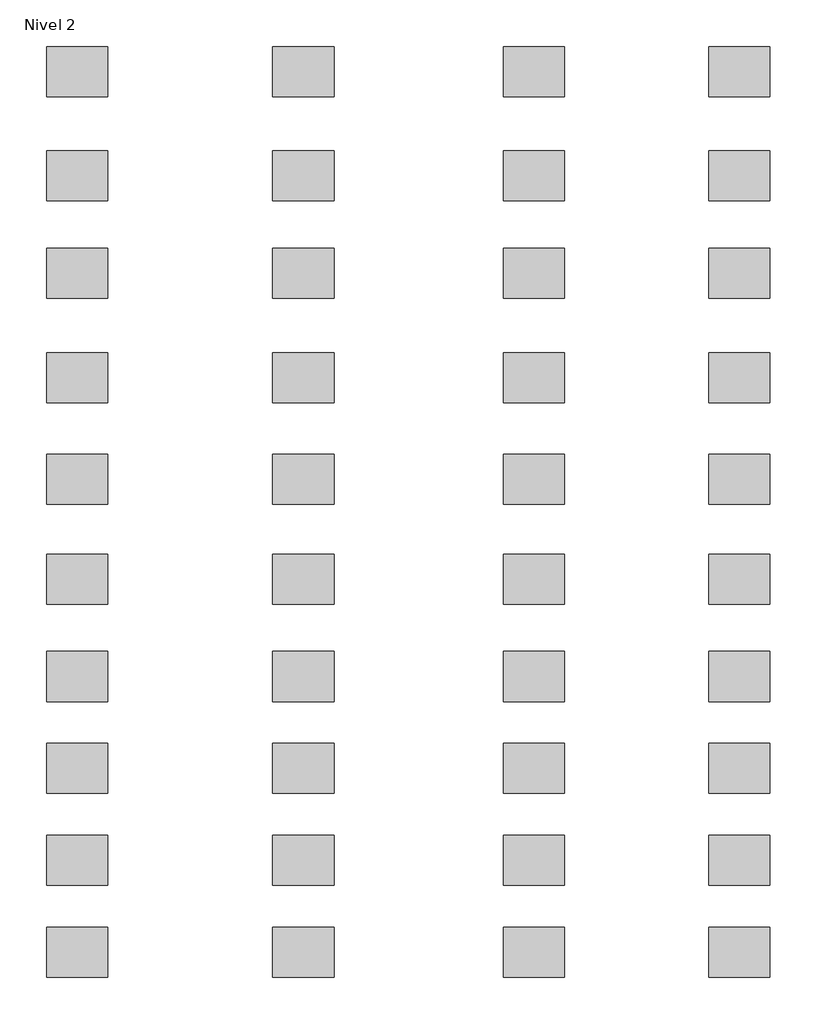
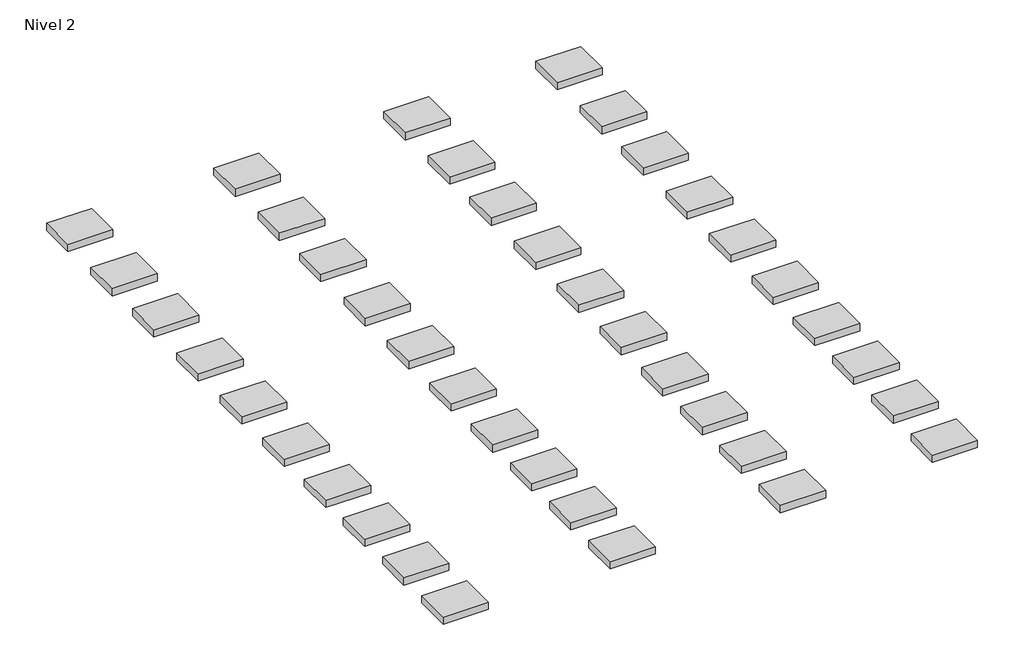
# One storey: 40 furniture elements.
"""IFC4 building model written with IfcOpenShell, lengths in millimetres."""

from ifc_helpers import new_model, si_unit, origin, place, context, project, spatial, transform, mapped, element, save
from components import furniture_fc90d0a3

model = new_model("IFC4")

# Units and contexts
model_context = context("Model", 3, world=origin())
ifc_project = project(units=[si_unit("LENGTHUNIT", "METRE", prefix="MILLI")], contexts=[model_context])

# Site, building, storey
site = spatial("IfcSite", under=ifc_project)
building = spatial("IfcBuilding", under=site)
storey = spatial("IfcBuildingStorey", under=building, Name="Nivel 2", Elevation=4000.0)

# Furniture
placement = place(None, origin())
furniture_shape = furniture_fc90d0a3(model_context)
element("IfcFurniture", 1, ObjectType="Natura : Natura 01", at=placement, inside=storey, context=model_context, shape_type="MappedRepresentation", body=[
    mapped(furniture_shape, transform((-9674.6867993, 10060.919512, 4000.0), x_axis=(1.0, 0.0, 0.0), y_axis=(0.0, 1.0, 0.0), z_axis=(0.0, 0.0, 1.0))),
])
element("IfcFurniture", 2, ObjectType="Natura : Natura 07", at=placement, inside=storey, context=model_context, shape_type="MappedRepresentation", body=[
    mapped(furniture_shape, transform((-9674.6867993, 7528.1002461, 4000.0), x_axis=(1.0, 0.0, 0.0), y_axis=(0.0, 1.0, 0.0), z_axis=(0.0, 0.0, 1.0))),
])
element("IfcFurniture", 3, ObjectType="Natura : Natura 08", at=placement, inside=storey, context=model_context, shape_type="MappedRepresentation", body=[
    mapped(furniture_shape, transform((-9674.6867993, 5160.919512, 4000.0), x_axis=(1.0, 0.0, 0.0), y_axis=(0.0, 1.0, 0.0), z_axis=(0.0, 0.0, 1.0))),
])
element("IfcFurniture", 4, ObjectType="Natura : Natura 10", at=placement, inside=storey, context=model_context, shape_type="MappedRepresentation", body=[
    mapped(furniture_shape, transform((-9674.6867993, 2628.1002461, 4000.0), x_axis=(1.0, 0.0, 0.0), y_axis=(0.0, 1.0, 0.0), z_axis=(0.0, 0.0, 1.0))),
])
element("IfcFurniture", 5, ObjectType="Natura : Natura 11", at=placement, inside=storey, context=model_context, shape_type="MappedRepresentation", body=[
    mapped(furniture_shape, transform((-9674.6867993, 162.8228274, 4000.0), x_axis=(1.0, 0.0, 0.0), y_axis=(0.0, 1.0, 0.0), z_axis=(0.0, 0.0, 1.0))),
])
element("IfcFurniture", 6, ObjectType="Natura : Natura 111", at=placement, inside=storey, context=model_context, shape_type="MappedRepresentation", body=[
    mapped(furniture_shape, transform((-4174.6867993, -6861.5292699, 4000.0), x_axis=(1.0, 0.0, 0.0), y_axis=(0.0, 1.0, 0.0), z_axis=(0.0, 0.0, 1.0))),
])
element("IfcFurniture", 7, ObjectType="Natura : Natura 131", at=placement, inside=storey, context=model_context, shape_type="MappedRepresentation", body=[
    mapped(furniture_shape, transform((-4174.6867993, -9090.4102238, 4000.0), x_axis=(1.0, 0.0, 0.0), y_axis=(0.0, 1.0, 0.0), z_axis=(0.0, 0.0, 1.0))),
])
element("IfcFurniture", 8, ObjectType="Natura : Natura 15", at=placement, inside=storey, context=model_context, shape_type="MappedRepresentation", body=[
    mapped(furniture_shape, transform((-9674.6867993, -2268.6836678, 4000.0), x_axis=(1.0, 0.0, 0.0), y_axis=(0.0, 1.0, 0.0), z_axis=(0.0, 0.0, 1.0))),
])
element("IfcFurniture", 9, ObjectType="Natura : Natura 156", at=placement, inside=storey, context=model_context, shape_type="MappedRepresentation", body=[
    mapped(furniture_shape, transform((-4174.6867993, -11332.6483159, 4000.0), x_axis=(1.0, 0.0, 0.0), y_axis=(0.0, 1.0, 0.0), z_axis=(0.0, 0.0, 1.0))),
])
element("IfcFurniture", 10, ObjectType="Natura : Natura 213", at=placement, inside=storey, context=model_context, shape_type="MappedRepresentation", body=[
    mapped(furniture_shape, transform((1425.3132007, 10060.919512, 4000.0), x_axis=(1.0, 0.0, 0.0), y_axis=(0.0, 1.0, 0.0), z_axis=(0.0, 0.0, 1.0))),
])
element("IfcFurniture", 11, ObjectType="Natura : Natura 250", at=placement, inside=storey, context=model_context, shape_type="MappedRepresentation", body=[
    mapped(furniture_shape, transform((1425.3132007, 7528.1002461, 4000.0), x_axis=(1.0, 0.0, 0.0), y_axis=(0.0, 1.0, 0.0), z_axis=(0.0, 0.0, 1.0))),
])
element("IfcFurniture", 12, ObjectType="Natura : Natura 266", at=placement, inside=storey, context=model_context, shape_type="MappedRepresentation", body=[
    mapped(furniture_shape, transform((1425.3132007, 5160.919512, 4000.0), x_axis=(1.0, 0.0, 0.0), y_axis=(0.0, 1.0, 0.0), z_axis=(0.0, 0.0, 1.0))),
])
element("IfcFurniture", 13, ObjectType="Natura : Natura 27", at=placement, inside=storey, context=model_context, shape_type="MappedRepresentation", body=[
    mapped(furniture_shape, transform((-9674.6867993, -4632.6483159, 4000.0), x_axis=(1.0, 0.0, 0.0), y_axis=(0.0, 1.0, 0.0), z_axis=(0.0, 0.0, 1.0))),
])
element("IfcFurniture", 14, ObjectType="Natura : Natura 271", at=placement, inside=storey, context=model_context, shape_type="MappedRepresentation", body=[
    mapped(furniture_shape, transform((1425.3132007, 2628.1002461, 4000.0), x_axis=(1.0, 0.0, 0.0), y_axis=(0.0, 1.0, 0.0), z_axis=(0.0, 0.0, 1.0))),
])
element("IfcFurniture", 15, ObjectType="Natura : Natura 30", at=placement, inside=storey, context=model_context, shape_type="MappedRepresentation", body=[
    mapped(furniture_shape, transform((-9674.6867993, -6861.5292699, 4000.0), x_axis=(1.0, 0.0, 0.0), y_axis=(0.0, 1.0, 0.0), z_axis=(0.0, 0.0, 1.0))),
])
element("IfcFurniture", 16, ObjectType="Natura : Natura 300", at=placement, inside=storey, context=model_context, shape_type="MappedRepresentation", body=[
    mapped(furniture_shape, transform((1425.3132007, 162.8228274, 4000.0), x_axis=(1.0, 0.0, 0.0), y_axis=(0.0, 1.0, 0.0), z_axis=(0.0, 0.0, 1.0))),
])
element("IfcFurniture", 17, ObjectType="Natura : Natura 324", at=placement, inside=storey, context=model_context, shape_type="MappedRepresentation", body=[
    mapped(furniture_shape, transform((1425.3132007, -2268.6836678, 4000.0), x_axis=(1.0, 0.0, 0.0), y_axis=(0.0, 1.0, 0.0), z_axis=(0.0, 0.0, 1.0))),
])
element("IfcFurniture", 18, ObjectType="Natura : Natura 336", at=placement, inside=storey, context=model_context, shape_type="MappedRepresentation", body=[
    mapped(furniture_shape, transform((1425.3132007, -4632.6483159, 4000.0), x_axis=(1.0, 0.0, 0.0), y_axis=(0.0, 1.0, 0.0), z_axis=(0.0, 0.0, 1.0))),
])
element("IfcFurniture", 19, ObjectType="Natura : Natura 339", at=placement, inside=storey, context=model_context, shape_type="MappedRepresentation", body=[
    mapped(furniture_shape, transform((1425.3132007, -6861.5292699, 4000.0), x_axis=(1.0, 0.0, 0.0), y_axis=(0.0, 1.0, 0.0), z_axis=(0.0, 0.0, 1.0))),
])
element("IfcFurniture", 20, ObjectType="Natura : Natura 349", at=placement, inside=storey, context=model_context, shape_type="MappedRepresentation", body=[
    mapped(furniture_shape, transform((1425.3132007, -9090.4102238, 4000.0), x_axis=(1.0, 0.0, 0.0), y_axis=(0.0, 1.0, 0.0), z_axis=(0.0, 0.0, 1.0))),
])
element("IfcFurniture", 21, ObjectType="Natura : Natura 43", at=placement, inside=storey, context=model_context, shape_type="MappedRepresentation", body=[
    mapped(furniture_shape, transform((-9674.6867993, -9090.4102238, 4000.0), x_axis=(1.0, 0.0, 0.0), y_axis=(0.0, 1.0, 0.0), z_axis=(0.0, 0.0, 1.0))),
])
element("IfcFurniture", 22, ObjectType="Natura : Natura 46", at=placement, inside=storey, context=model_context, shape_type="MappedRepresentation", body=[
    mapped(furniture_shape, transform((-9674.6867993, -11332.6483159, 4000.0), x_axis=(1.0, 0.0, 0.0), y_axis=(0.0, 1.0, 0.0), z_axis=(0.0, 0.0, 1.0))),
])
element("IfcFurniture", 23, ObjectType="Natura : Natura 525", at=placement, inside=storey, context=model_context, shape_type="MappedRepresentation", body=[
    mapped(furniture_shape, transform((1425.3132007, -11332.6483159, 4000.0), x_axis=(1.0, 0.0, 0.0), y_axis=(0.0, 1.0, 0.0), z_axis=(0.0, 0.0, 1.0))),
])
element("IfcFurniture", 24, ObjectType="Natura : Natura 526", at=placement, inside=storey, context=model_context, shape_type="MappedRepresentation", body=[
    mapped(furniture_shape, transform((6425.3132007, 10060.919512, 4000.0), x_axis=(1.0, 0.0, 0.0), y_axis=(0.0, 1.0, 0.0), z_axis=(0.0, 0.0, 1.0))),
])
element("IfcFurniture", 25, ObjectType="Natura : Natura 527", at=placement, inside=storey, context=model_context, shape_type="MappedRepresentation", body=[
    mapped(furniture_shape, transform((6425.3132007, 7528.1002461, 4000.0), x_axis=(1.0, 0.0, 0.0), y_axis=(0.0, 1.0, 0.0), z_axis=(0.0, 0.0, 1.0))),
])
element("IfcFurniture", 26, ObjectType="Natura : Natura 53", at=placement, inside=storey, context=model_context, shape_type="MappedRepresentation", body=[
    mapped(furniture_shape, transform((-4174.6867993, 10060.919512, 4000.0), x_axis=(1.0, 0.0, 0.0), y_axis=(0.0, 1.0, 0.0), z_axis=(0.0, 0.0, 1.0))),
])
element("IfcFurniture", 27, ObjectType="Natura : Natura 531", at=placement, inside=storey, context=model_context, shape_type="MappedRepresentation", body=[
    mapped(furniture_shape, transform((6425.3132007, 5160.919512, 4000.0), x_axis=(1.0, 0.0, 0.0), y_axis=(0.0, 1.0, 0.0), z_axis=(0.0, 0.0, 1.0))),
])
element("IfcFurniture", 28, ObjectType="Natura : Natura 540", at=placement, inside=storey, context=model_context, shape_type="MappedRepresentation", body=[
    mapped(furniture_shape, transform((6425.3132007, 2628.1002461, 4000.0), x_axis=(1.0, 0.0, 0.0), y_axis=(0.0, 1.0, 0.0), z_axis=(0.0, 0.0, 1.0))),
])
element("IfcFurniture", 29, ObjectType="Natura : Natura 544", at=placement, inside=storey, context=model_context, shape_type="MappedRepresentation", body=[
    mapped(furniture_shape, transform((6425.3132007, 162.8228274, 4000.0), x_axis=(1.0, 0.0, 0.0), y_axis=(0.0, 1.0, 0.0), z_axis=(0.0, 0.0, 1.0))),
])
element("IfcFurniture", 30, ObjectType="Natura : Natura 548", at=placement, inside=storey, context=model_context, shape_type="MappedRepresentation", body=[
    mapped(furniture_shape, transform((6425.3132007, -2268.6836678, 4000.0), x_axis=(1.0, 0.0, 0.0), y_axis=(0.0, 1.0, 0.0), z_axis=(0.0, 0.0, 1.0))),
])
element("IfcFurniture", 31, ObjectType="Natura : Natura 550", at=placement, inside=storey, context=model_context, shape_type="MappedRepresentation", body=[
    mapped(furniture_shape, transform((6425.3132007, -4632.6483159, 4000.0), x_axis=(1.0, 0.0, 0.0), y_axis=(0.0, 1.0, 0.0), z_axis=(0.0, 0.0, 1.0))),
])
element("IfcFurniture", 32, ObjectType="Natura : Natura 602", at=placement, inside=storey, context=model_context, shape_type="MappedRepresentation", body=[
    mapped(furniture_shape, transform((6425.3132007, -6861.5292699, 4000.0), x_axis=(1.0, 0.0, 0.0), y_axis=(0.0, 1.0, 0.0), z_axis=(0.0, 0.0, 1.0))),
])
element("IfcFurniture", 33, ObjectType="Natura : Natura 61", at=placement, inside=storey, context=model_context, shape_type="MappedRepresentation", body=[
    mapped(furniture_shape, transform((-4174.6867993, 7528.1002461, 4000.0), x_axis=(1.0, 0.0, 0.0), y_axis=(0.0, 1.0, 0.0), z_axis=(0.0, 0.0, 1.0))),
])
element("IfcFurniture", 34, ObjectType="Natura : Natura 618", at=placement, inside=storey, context=model_context, shape_type="MappedRepresentation", body=[
    mapped(furniture_shape, transform((6425.3132007, -9090.4102238, 4000.0), x_axis=(1.0, 0.0, 0.0), y_axis=(0.0, 1.0, 0.0), z_axis=(0.0, 0.0, 1.0))),
])
element("IfcFurniture", 35, ObjectType="Natura : Natura 62", at=placement, inside=storey, context=model_context, shape_type="MappedRepresentation", body=[
    mapped(furniture_shape, transform((-4174.6867993, 5160.919512, 4000.0), x_axis=(1.0, 0.0, 0.0), y_axis=(0.0, 1.0, 0.0), z_axis=(0.0, 0.0, 1.0))),
])
element("IfcFurniture", 36, ObjectType="Natura : Natura 625", at=placement, inside=storey, context=model_context, shape_type="MappedRepresentation", body=[
    mapped(furniture_shape, transform((6425.3132007, -11332.6483159, 4000.0), x_axis=(1.0, 0.0, 0.0), y_axis=(0.0, 1.0, 0.0), z_axis=(0.0, 0.0, 1.0))),
])
element("IfcFurniture", 37, ObjectType="Natura : Natura 69", at=placement, inside=storey, context=model_context, shape_type="MappedRepresentation", body=[
    mapped(furniture_shape, transform((-4174.6867993, 2628.1002461, 4000.0), x_axis=(1.0, 0.0, 0.0), y_axis=(0.0, 1.0, 0.0), z_axis=(0.0, 0.0, 1.0))),
])
element("IfcFurniture", 38, ObjectType="Natura : Natura 80", at=placement, inside=storey, context=model_context, shape_type="MappedRepresentation", body=[
    mapped(furniture_shape, transform((-4174.6867993, 162.8228274, 4000.0), x_axis=(1.0, 0.0, 0.0), y_axis=(0.0, 1.0, 0.0), z_axis=(0.0, 0.0, 1.0))),
])
element("IfcFurniture", 39, ObjectType="Natura : Natura 91", at=placement, inside=storey, context=model_context, shape_type="MappedRepresentation", body=[
    mapped(furniture_shape, transform((-4174.6867993, -2268.6836678, 4000.0), x_axis=(1.0, 0.0, 0.0), y_axis=(0.0, 1.0, 0.0), z_axis=(0.0, 0.0, 1.0))),
])
element("IfcFurniture", 40, ObjectType="Natura : Natura 94", at=placement, inside=storey, context=model_context, shape_type="MappedRepresentation", body=[
    mapped(furniture_shape, transform((-4174.6867993, -4632.6483159, 4000.0), x_axis=(1.0, 0.0, 0.0), y_axis=(0.0, 1.0, 0.0), z_axis=(0.0, 0.0, 1.0))),
])

save(model, "model.ifc")
